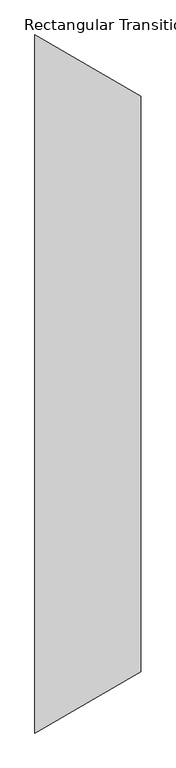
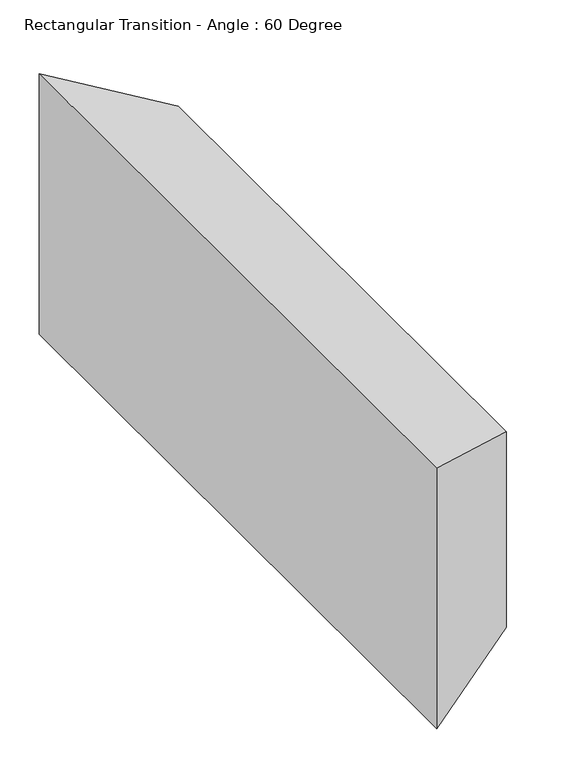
"""IFC4 building model written with IfcOpenShell, lengths in millimetres: duct fitting geometry, Rectangular Transition - Angle : 60 Degree."""

from ifc_helpers import new_model, si_unit, origin, place, context, project, spatial, faceted_brep, source, transform, mapped, element, save


def rectangular_transition_angle_60_degree_5c557b6e(model_context):
    return source(origin(), model_context, "Body", "Brep", [
        faceted_brep([(153.9793168, -419.1, 152.329644), (153.9793168, -419.1, -152.470356), (153.9793168, 419.1, -152.470356), (153.9793168, 419.1, 152.329644), (0.0, -508.0, 203.2), (0.0, 508.0, 203.2), (0.0, 508.0, -203.2), (0.0, -508.0, -203.2)], [[[0, 1, 2, 3]], [[4, 5, 6, 7]], [[4, 7, 1, 0]], [[7, 6, 2, 1]], [[6, 5, 3, 2]], [[5, 4, 0, 3]]]),
    ])


if __name__ == "__main__":
    model = new_model("IFC4")
    model_context = context("Model", 3, world=origin())
    ifc_project = project(units=[si_unit("LENGTHUNIT", "METRE", prefix="MILLI")], contexts=[model_context])
    site = spatial("IfcSite", under=ifc_project)
    building = spatial("IfcBuilding", under=site)
    placement = place(None, origin())
    rectangular_transition_angle_60_degree_shape = rectangular_transition_angle_60_degree_5c557b6e(model_context)
    element("IfcDuctFitting", 1, ObjectType="Rectangular Transition - Angle : 60 Degree", at=placement, inside=building, context=model_context, shape_type="MappedRepresentation", body=[
        mapped(rectangular_transition_angle_60_degree_shape, transform((0.0, 0.0, 0.0), x_axis=(1.0, 0.0, 0.0), y_axis=(0.0, 1.0, 0.0), z_axis=(0.0, 0.0, 1.0))),
    ])
    save(model, "model.ifc")
